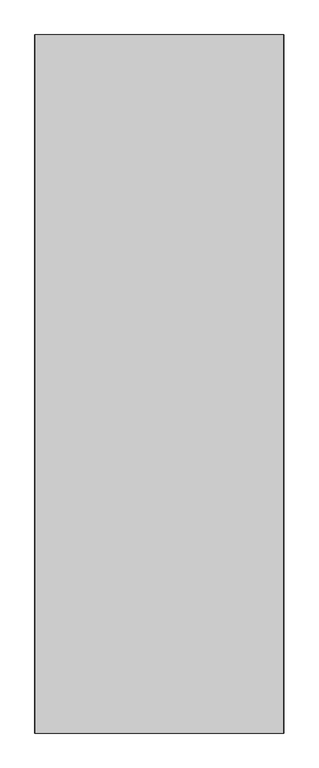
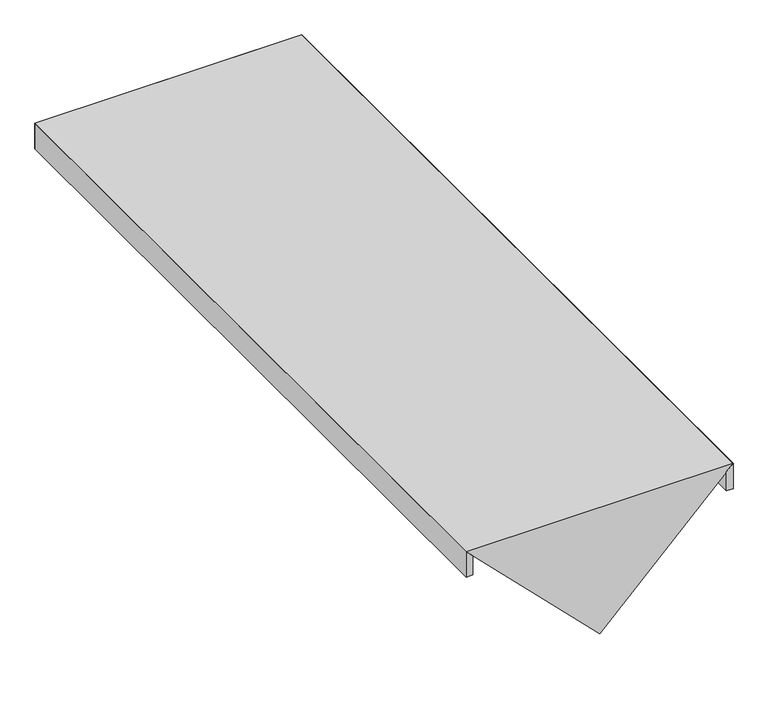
"""IFC4 building model written with IfcOpenShell, lengths in millimetres: proxy geometry, AERO^WALL HUNG_SHELF STORAGE-WALL PARTS SOLID."""

from ifc_helpers import new_model, si_unit, origin, place, context, project, spatial, faceted_brep, source, transform, mapped, element, save


def generic_models_85b25a52(model_context):
    return source(origin(), model_context, "Body", "Brep", [
        faceted_brep([(762.0, 2133.6, -57.15), (762.0, 2133.6, 19.05), (762.0, 0.0, 19.05), (762.0, 0.0, -57.15), (742.95, 2114.55, 0.0), (742.95, 0.0, 0.0), (742.95, 2114.55, -57.15), (742.95, 0.0, -57.15)], [[[0, 1, 2, 3]], [[1, 4, 5, 2]], [[4, 6, 7, 5]], [[6, 0, 3, 7]], [[3, 2, 5, 7]], [[4, 1, 0, 6]]]),
        faceted_brep([(19.05, 2114.55, -57.15), (19.05, 2114.55, 0.0), (19.05, 0.0, 0.0), (19.05, 0.0, -57.15), (0.0, 2133.6, 19.05), (0.0, 0.0, 19.05), (0.0, 2133.6, -57.15), (0.0, 0.0, -57.15)], [[[0, 1, 2, 3]], [[1, 4, 5, 2]], [[4, 6, 7, 5]], [[6, 0, 3, 7]], [[3, 2, 5, 7]], [[4, 1, 0, 6]]]),
        faceted_brep([(762.0, 0.0, 19.05), (381.0, 0.0, -361.95), (381.0, 1752.6, -361.95), (762.0, 2133.6, 19.05), (0.0, 0.0, 19.05), (0.0, 2133.6, 19.05)], [[[0, 1, 2, 3]], [[1, 0, 4]], [[3, 2, 5]], [[1, 4, 5, 2]], [[0, 3, 5, 4]]]),
        faceted_brep([(0.0, 2133.6, -57.15), (19.05, 2114.55, -57.15), (19.05, 2114.55, 0.0), (0.0, 2133.6, 19.05), (742.95, 2114.55, -57.15), (742.95, 2114.55, 0.0), (762.0, 2133.6, -57.15), (762.0, 2133.6, 19.05)], [[[0, 1, 2, 3]], [[2, 1, 4, 5]], [[1, 0, 6, 4]], [[4, 6, 7, 5]], [[0, 3, 7, 6]], [[3, 2, 5, 7]]]),
    ])


if __name__ == "__main__":
    model = new_model("IFC4")
    model_context = context("Model", 3, world=origin())
    ifc_project = project(units=[si_unit("LENGTHUNIT", "METRE", prefix="MILLI")], contexts=[model_context])
    site = spatial("IfcSite", under=ifc_project)
    building = spatial("IfcBuilding", under=site)
    placement = place(None, origin())
    generic_models_shape = generic_models_85b25a52(model_context)
    element("IfcBuildingElementProxy", 1, Name="AERO^WALL HUNG_SHELF STORAGE-WALL PARTS SOLID", ObjectType="AERO^WALL HUNG_SHELF STORAGE-WALL PARTS SOLID", at=placement, inside=building, context=model_context, shape_type="MappedRepresentation", body=[
        mapped(generic_models_shape, transform((0.0, 0.0, 0.0), x_axis=(1.0, 0.0, 0.0), y_axis=(0.0, 1.0, 0.0), z_axis=(0.0, 0.0, 1.0))),
    ])
    save(model, "model.ifc")
